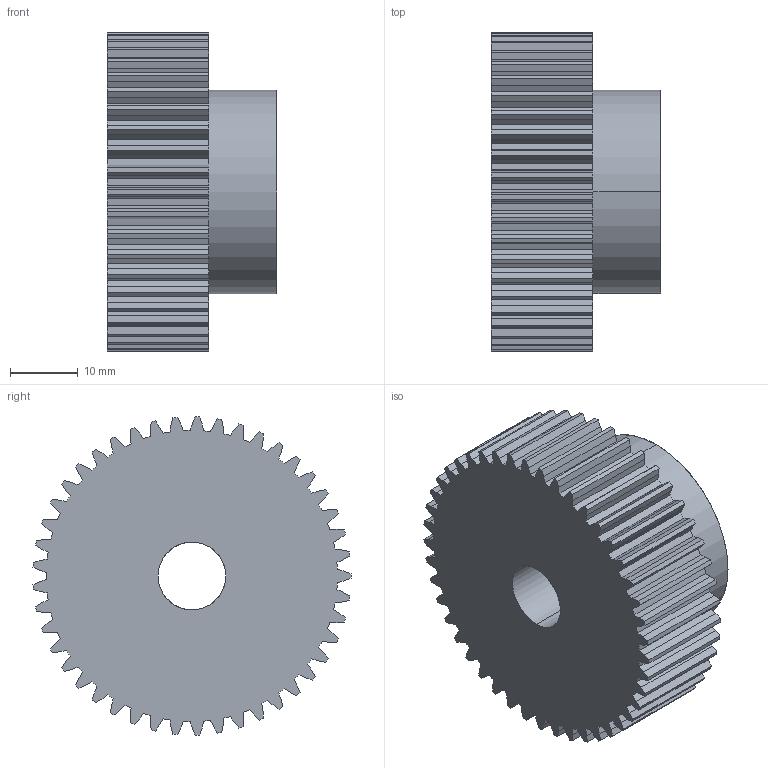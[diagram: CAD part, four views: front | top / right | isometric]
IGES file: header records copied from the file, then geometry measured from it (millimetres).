
Start section: SolidWorks IGES file using analytic representation for surfaces
Global section: file name: C:\Users\Honza\Desktop\Èelní ozubená kola\rozbalene\PM\MODUL 1\PM 26045.IGS; native system: SolidWorks 2010; preprocessor: SolidWorks 2010; author: Honza; date: 130923.150951; units: millimetre
Bounding box: 25 x 46.96 x 46.99 mm (x, y, z)
Surface area: 8723.7 mm2 (no closed solid volume)
Topology: 0 solids, 0 shells, 277 faces, 1829 edges, 1829 vertices
Faces by surface type: bspline 183, revolution 94
